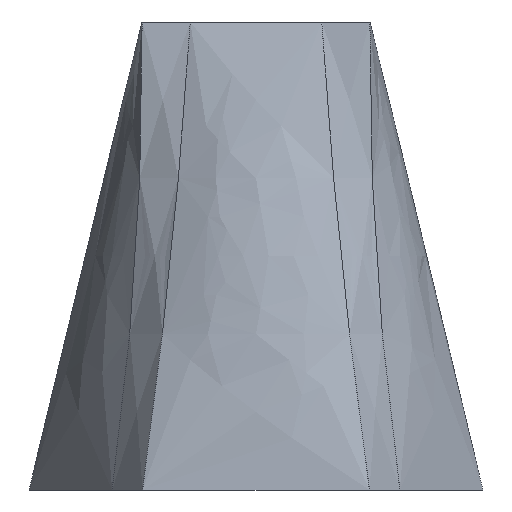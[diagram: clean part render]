
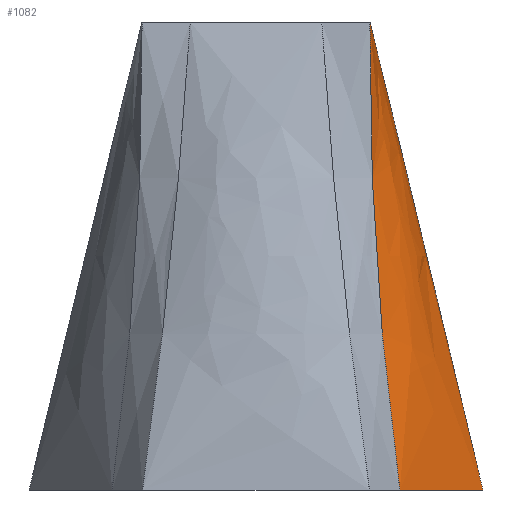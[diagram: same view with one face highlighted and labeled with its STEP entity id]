
A CAD part, front view. The second image highlights one B-rep face of the part: STEP entity #1082.
In plain terms, the highlighted free-form (B-spline) face has degree [7, 2] with [8, 3] control points.
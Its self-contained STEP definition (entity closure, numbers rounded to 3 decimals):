
#22 = VERTEX_POINT('',#23);
#23 = CARTESIAN_POINT('',(18.135,0.,0.));
#37 = B_SPLINE_SURFACE_WITH_KNOTS('',7,2,(
    (#38,#39,#40)
    ,(#41,#42,#43)
    ,(#44,#45,#46)
    ,(#47,#48,#49)
    ,(#50,#51,#52)
    ,(#53,#54,#55)
    ,(#56,#57,#58)
    ,(#59,#60,#61
    )),.UNSPECIFIED.,.F.,.F.,.F.,(8,8),(3,3),(0.,1.),(0.,1.),
  .PIECEWISE_BEZIER_KNOTS.);
#38 = CARTESIAN_POINT('',(18.135,0.,0.));
#39 = CARTESIAN_POINT('',(13.583,0.,18.7));
#40 = CARTESIAN_POINT('',(9.1,0.,37.4));
#41 = CARTESIAN_POINT('',(17.187,1.642,0.));
#42 = CARTESIAN_POINT('',(14.057,1.581,18.7));
#43 = CARTESIAN_POINT('',(9.1,1.3,37.4));
#44 = CARTESIAN_POINT('',(16.238,3.285,0.));
#45 = CARTESIAN_POINT('',(14.131,3.161,18.7));
#46 = CARTESIAN_POINT('',(9.1,2.6,37.4));
#47 = CARTESIAN_POINT('',(15.29,4.927,0.));
#48 = CARTESIAN_POINT('',(13.806,4.679,18.7
    ));
#49 = CARTESIAN_POINT('',(9.1,3.9,37.4));
#50 = CARTESIAN_POINT('',(14.342,6.57,0.));
#51 = CARTESIAN_POINT('',(13.094,6.071,18.7
    ));
#52 = CARTESIAN_POINT('',(9.1,5.2,37.4));
#53 = CARTESIAN_POINT('',(13.394,8.212,0.));
#54 = CARTESIAN_POINT('',(12.02,7.279,18.7)
  );
#55 = CARTESIAN_POINT('',(9.1,6.5,37.4));
#56 = CARTESIAN_POINT('',(12.445,9.855,0.));
#57 = CARTESIAN_POINT('',(10.619,8.248,18.7));
#58 = CARTESIAN_POINT('',(9.1,7.8,37.4));
#59 = CARTESIAN_POINT('',(11.497,11.497,0.));
#60 = CARTESIAN_POINT('',(8.935,8.935,18.7));
#61 = CARTESIAN_POINT('',(9.1,9.1,37.4));
#69 = PLANE('',#70);
#70 = AXIS2_PLACEMENT_3D('',#71,#72,#73);
#71 = CARTESIAN_POINT('',(18.135,0.,0.));
#72 = DIRECTION('',(0.,0.,1.));
#73 = DIRECTION('',(-1.,0.,0.));
#135 = VERTEX_POINT('',#136);
#136 = CARTESIAN_POINT('',(9.1,0.,37.4));
#155 = PLANE('',#156);
#156 = AXIS2_PLACEMENT_3D('',#157,#158,#159);
#157 = CARTESIAN_POINT('',(9.1,0.,37.4));
#158 = DIRECTION('',(0.,0.,1.));
#159 = DIRECTION('',(-0.894,0.447,0.));
#172 = EDGE_CURVE('',#22,#135,#173,.T.);
#173 = SURFACE_CURVE('',#174,(#178,#185),.PCURVE_S1.);
#174 = B_SPLINE_CURVE_WITH_KNOTS('',2,(#175,#176,#177),.UNSPECIFIED.,.F.
  ,.F.,(3,3),(0.,1.),.PIECEWISE_BEZIER_KNOTS.);
#175 = CARTESIAN_POINT('',(18.135,0.,0.));
#176 = CARTESIAN_POINT('',(13.583,0.,18.7));
#177 = CARTESIAN_POINT('',(9.1,0.,37.4));
#178 = PCURVE('',#37,#179);
#179 = DEFINITIONAL_REPRESENTATION('',(#180),#184);
#180 = LINE('',#181,#182);
#181 = CARTESIAN_POINT('',(0.,0.));
#182 = VECTOR('',#183,1.);
#183 = DIRECTION('',(0.,1.));
#184 = ( GEOMETRIC_REPRESENTATION_CONTEXT(2) 
PARAMETRIC_REPRESENTATION_CONTEXT() REPRESENTATION_CONTEXT('2D SPACE',''
  ) );
#185 = PCURVE('',#186,#211);
#186 = B_SPLINE_SURFACE_WITH_KNOTS('',7,2,(
    (#187,#188,#189)
    ,(#190,#191,#192)
    ,(#193,#194,#195)
    ,(#196,#197,#198)
    ,(#199,#200,#201)
    ,(#202,#203,#204)
    ,(#205,#206,#207)
    ,(#208,#209,#210
    )),.UNSPECIFIED.,.F.,.F.,.F.,(8,8),(3,3),(9.,10.),(0.,1.),
  .PIECEWISE_BEZIER_KNOTS.);
#187 = CARTESIAN_POINT('',(11.497,-11.497,0.));
#188 = CARTESIAN_POINT('',(8.935,-8.935,18.7));
#189 = CARTESIAN_POINT('',(9.1,-9.1,37.4));
#190 = CARTESIAN_POINT('',(12.445,-9.855,0.));
#191 = CARTESIAN_POINT('',(10.619,-8.248,18.7));
#192 = CARTESIAN_POINT('',(9.1,-7.8,37.4));
#193 = CARTESIAN_POINT('',(13.394,-8.212,0.));
#194 = CARTESIAN_POINT('',(12.02,-7.279,18.7));
#195 = CARTESIAN_POINT('',(9.1,-6.5,37.4));
#196 = CARTESIAN_POINT('',(14.342,-6.57,0.));
#197 = CARTESIAN_POINT('',(13.094,-6.071,18.7));
#198 = CARTESIAN_POINT('',(9.1,-5.2,37.4));
#199 = CARTESIAN_POINT('',(15.29,-4.927,0.));
#200 = CARTESIAN_POINT('',(13.806,-4.679,
    18.7));
#201 = CARTESIAN_POINT('',(9.1,-3.9,37.4));
#202 = CARTESIAN_POINT('',(16.238,-3.285,0.));
#203 = CARTESIAN_POINT('',(14.131,-3.161,18.7));
#204 = CARTESIAN_POINT('',(9.1,-2.6,37.4));
#205 = CARTESIAN_POINT('',(17.187,-1.642,0.));
#206 = CARTESIAN_POINT('',(14.057,-1.581,18.7));
#207 = CARTESIAN_POINT('',(9.1,-1.3,37.4));
#208 = CARTESIAN_POINT('',(18.135,0.,0.));
#209 = CARTESIAN_POINT('',(13.583,0.,18.7));
#210 = CARTESIAN_POINT('',(9.1,0.,37.4));
#211 = DEFINITIONAL_REPRESENTATION('',(#212),#216);
#212 = LINE('',#213,#214);
#213 = CARTESIAN_POINT('',(10.,0.));
#214 = VECTOR('',#215,1.);
#215 = DIRECTION('',(0.,1.));
#216 = ( GEOMETRIC_REPRESENTATION_CONTEXT(2) 
PARAMETRIC_REPRESENTATION_CONTEXT() REPRESENTATION_CONTEXT('2D SPACE',''
  ) );
#604 = VERTEX_POINT('',#605);
#605 = CARTESIAN_POINT('',(11.497,-11.497,0.));
#629 = B_SPLINE_SURFACE_WITH_KNOTS('',7,2,(
    (#630,#631,#632)
    ,(#633,#634,#635)
    ,(#636,#637,#638)
    ,(#639,#640,#641)
    ,(#642,#643,#644)
    ,(#645,#646,#647)
    ,(#648,#649,#650)
    ,(#651,#652,#653
    )),.UNSPECIFIED.,.F.,.F.,.F.,(8,8),(3,3),(8.,9.),(0.,1.),
  .PIECEWISE_BEZIER_KNOTS.);
#630 = CARTESIAN_POINT('',(9.068,-15.705,0.));
#631 = CARTESIAN_POINT('',(6.439,-11.153,18.7));
#632 = CARTESIAN_POINT('',(5.254,-9.1,37.4));
#633 = CARTESIAN_POINT('',(9.415,-15.104,0.));
#634 = CARTESIAN_POINT('',(6.872,-10.945,18.7));
#635 = CARTESIAN_POINT('',(5.803,-9.1,37.4));
#636 = CARTESIAN_POINT('',(9.762,-14.503,0.));
#637 = CARTESIAN_POINT('',(7.283,-10.699,18.7));
#638 = CARTESIAN_POINT('',(6.353,-9.1,37.4));
#639 = CARTESIAN_POINT('',(10.109,-13.902,0.));
#640 = CARTESIAN_POINT('',(7.669,-10.415,18.7));
#641 = CARTESIAN_POINT('',(6.902,-9.1,37.4));
#642 = CARTESIAN_POINT('',(10.456,-13.301,0.));
#643 = CARTESIAN_POINT('',(8.029,-10.095,18.7));
#644 = CARTESIAN_POINT('',(7.452,-9.1,37.4));
#645 = CARTESIAN_POINT('',(10.803,-12.699,0.));
#646 = CARTESIAN_POINT('',(8.361,-9.741,18.7));
#647 = CARTESIAN_POINT('',(8.001,-9.1,37.4));
#648 = CARTESIAN_POINT('',(11.15,-12.098,0.));
#649 = CARTESIAN_POINT('',(8.664,-9.353,18.7));
#650 = CARTESIAN_POINT('',(8.551,-9.1,37.4));
#651 = CARTESIAN_POINT('',(11.497,-11.497,0.));
#652 = CARTESIAN_POINT('',(8.935,-8.935,18.7));
#653 = CARTESIAN_POINT('',(9.1,-9.1,37.4));
#661 = EDGE_CURVE('',#604,#22,#662,.T.);
#662 = SURFACE_CURVE('',#663,(#672,#684),.PCURVE_S1.);
#663 = B_SPLINE_CURVE_WITH_KNOTS('',7,(#664,#665,#666,#667,#668,#669,
    #670,#671),.UNSPECIFIED.,.F.,.F.,(8,8),(9.,10.),
  .PIECEWISE_BEZIER_KNOTS.);
#664 = CARTESIAN_POINT('',(11.497,-11.497,0.));
#665 = CARTESIAN_POINT('',(12.445,-9.855,0.));
#666 = CARTESIAN_POINT('',(13.394,-8.212,0.));
#667 = CARTESIAN_POINT('',(14.342,-6.57,0.));
#668 = CARTESIAN_POINT('',(15.29,-4.927,0.));
#669 = CARTESIAN_POINT('',(16.238,-3.285,0.));
#670 = CARTESIAN_POINT('',(17.187,-1.642,0.));
#671 = CARTESIAN_POINT('',(18.135,0.,0.));
#672 = PCURVE('',#69,#673);
#673 = DEFINITIONAL_REPRESENTATION('',(#674),#683);
#674 = B_SPLINE_CURVE_WITH_KNOTS('',7,(#675,#676,#677,#678,#679,#680,
    #681,#682),.UNSPECIFIED.,.F.,.F.,(8,8),(9.,10.),
  .PIECEWISE_BEZIER_KNOTS.);
#675 = CARTESIAN_POINT('',(6.638,11.497));
#676 = CARTESIAN_POINT('',(5.69,9.855));
#677 = CARTESIAN_POINT('',(4.741,8.212));
#678 = CARTESIAN_POINT('',(3.793,6.57));
#679 = CARTESIAN_POINT('',(2.845,4.927));
#680 = CARTESIAN_POINT('',(1.897,3.285));
#681 = CARTESIAN_POINT('',(0.948,1.642));
#682 = CARTESIAN_POINT('',(0.,0.));
#683 = ( GEOMETRIC_REPRESENTATION_CONTEXT(2) 
PARAMETRIC_REPRESENTATION_CONTEXT() REPRESENTATION_CONTEXT('2D SPACE',''
  ) );
#684 = PCURVE('',#186,#685);
#685 = DEFINITIONAL_REPRESENTATION('',(#686),#690);
#686 = LINE('',#687,#688);
#687 = CARTESIAN_POINT('',(0.,0.));
#688 = VECTOR('',#689,1.);
#689 = DIRECTION('',(1.,0.));
#690 = ( GEOMETRIC_REPRESENTATION_CONTEXT(2) 
PARAMETRIC_REPRESENTATION_CONTEXT() REPRESENTATION_CONTEXT('2D SPACE',''
  ) );
#990 = VERTEX_POINT('',#991);
#991 = CARTESIAN_POINT('',(9.1,-9.1,37.4));
#1022 = EDGE_CURVE('',#990,#135,#1023,.T.);
#1023 = SURFACE_CURVE('',#1024,(#1033,#1045),.PCURVE_S1.);
#1024 = B_SPLINE_CURVE_WITH_KNOTS('',7,(#1025,#1026,#1027,#1028,#1029,
    #1030,#1031,#1032),.UNSPECIFIED.,.F.,.F.,(8,8),(9.,10.),
  .PIECEWISE_BEZIER_KNOTS.);
#1025 = CARTESIAN_POINT('',(9.1,-9.1,37.4));
#1026 = CARTESIAN_POINT('',(9.1,-7.8,37.4));
#1027 = CARTESIAN_POINT('',(9.1,-6.5,37.4));
#1028 = CARTESIAN_POINT('',(9.1,-5.2,37.4));
#1029 = CARTESIAN_POINT('',(9.1,-3.9,37.4));
#1030 = CARTESIAN_POINT('',(9.1,-2.6,37.4));
#1031 = CARTESIAN_POINT('',(9.1,-1.3,37.4));
#1032 = CARTESIAN_POINT('',(9.1,0.,37.4));
#1033 = PCURVE('',#155,#1034);
#1034 = DEFINITIONAL_REPRESENTATION('',(#1035),#1044);
#1035 = B_SPLINE_CURVE_WITH_KNOTS('',7,(#1036,#1037,#1038,#1039,#1040,
    #1041,#1042,#1043),.UNSPECIFIED.,.F.,.F.,(8,8),(9.,10.),
  .PIECEWISE_BEZIER_KNOTS.);
#1036 = CARTESIAN_POINT('',(-4.07,8.139));
#1037 = CARTESIAN_POINT('',(-3.488,6.977));
#1038 = CARTESIAN_POINT('',(-2.907,5.814));
#1039 = CARTESIAN_POINT('',(-2.326,4.651));
#1040 = CARTESIAN_POINT('',(-1.744,3.488));
#1041 = CARTESIAN_POINT('',(-1.163,2.326));
#1042 = CARTESIAN_POINT('',(-0.581,1.163));
#1043 = CARTESIAN_POINT('',(0.,0.));
#1044 = ( GEOMETRIC_REPRESENTATION_CONTEXT(2) 
PARAMETRIC_REPRESENTATION_CONTEXT() REPRESENTATION_CONTEXT('2D SPACE',''
  ) );
#1045 = PCURVE('',#186,#1046);
#1046 = DEFINITIONAL_REPRESENTATION('',(#1047),#1051);
#1047 = LINE('',#1048,#1049);
#1048 = CARTESIAN_POINT('',(0.,1.));
#1049 = VECTOR('',#1050,1.);
#1050 = DIRECTION('',(1.,0.));
#1051 = ( GEOMETRIC_REPRESENTATION_CONTEXT(2) 
PARAMETRIC_REPRESENTATION_CONTEXT() REPRESENTATION_CONTEXT('2D SPACE',''
  ) );
#1082 = ADVANCED_FACE('',(#1083),#186,.T.);
#1083 = FACE_BOUND('',#1084,.T.);
#1084 = EDGE_LOOP('',(#1085,#1086,#1087,#1088));
#1085 = ORIENTED_EDGE('',*,*,#661,.T.);
#1086 = ORIENTED_EDGE('',*,*,#172,.T.);
#1087 = ORIENTED_EDGE('',*,*,#1022,.F.);
#1088 = ORIENTED_EDGE('',*,*,#1089,.F.);
#1089 = EDGE_CURVE('',#604,#990,#1090,.T.);
#1090 = SURFACE_CURVE('',#1091,(#1095,#1102),.PCURVE_S1.);
#1091 = B_SPLINE_CURVE_WITH_KNOTS('',2,(#1092,#1093,#1094),
  .UNSPECIFIED.,.F.,.F.,(3,3),(0.,1.),.PIECEWISE_BEZIER_KNOTS.);
#1092 = CARTESIAN_POINT('',(11.497,-11.497,0.));
#1093 = CARTESIAN_POINT('',(8.935,-8.935,18.7));
#1094 = CARTESIAN_POINT('',(9.1,-9.1,37.4));
#1095 = PCURVE('',#186,#1096);
#1096 = DEFINITIONAL_REPRESENTATION('',(#1097),#1101);
#1097 = LINE('',#1098,#1099);
#1098 = CARTESIAN_POINT('',(9.,0.));
#1099 = VECTOR('',#1100,1.);
#1100 = DIRECTION('',(0.,1.));
#1101 = ( GEOMETRIC_REPRESENTATION_CONTEXT(2) 
PARAMETRIC_REPRESENTATION_CONTEXT() REPRESENTATION_CONTEXT('2D SPACE',''
  ) );
#1102 = PCURVE('',#629,#1103);
#1103 = DEFINITIONAL_REPRESENTATION('',(#1104),#1108);
#1104 = LINE('',#1105,#1106);
#1105 = CARTESIAN_POINT('',(9.,0.));
#1106 = VECTOR('',#1107,1.);
#1107 = DIRECTION('',(0.,1.));
#1108 = ( GEOMETRIC_REPRESENTATION_CONTEXT(2) 
PARAMETRIC_REPRESENTATION_CONTEXT() REPRESENTATION_CONTEXT('2D SPACE',''
  ) );
